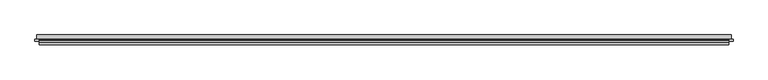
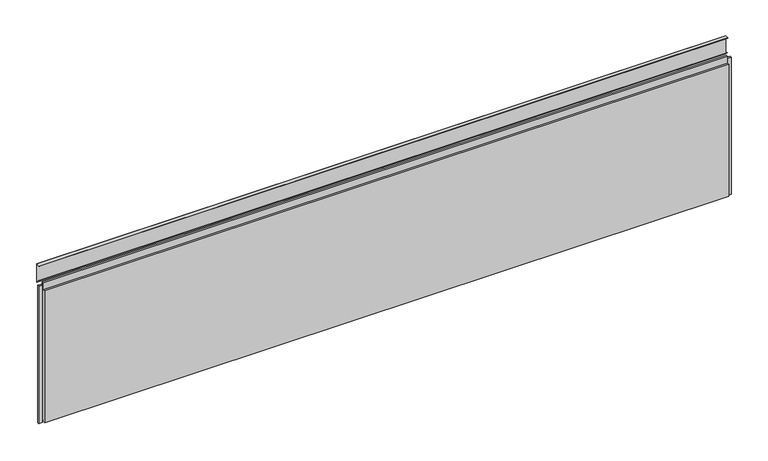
"""IFC4 building model written with IfcOpenShell, lengths in millimetres: plate geometry, Trimo_Qbiss Screen_Normal Panel-HORIZONTAL : HR - B."""

from ifc_helpers import new_model, si_unit, frame, origin, place, context, project, spatial, polyline, outline, extrude, source, transform, mapped, element, save


def plate_07490929(model_context):
    return source(origin(), model_context, "Body", "SweptSolid", [
        extrude(outline(polyline([(100.0, 748.2), (85.8578644, 762.3421356), (86.4235498, 762.907821), (99.2, 750.1313708), (99.2, 847.3569759), (80.0692781, 846.3543772), (80.0692781, 847.1554751), (100.0, 848.2), (100.0, 748.2)])), frame((-1775.0, 0.0, 0.0), z_axis=(1.0, 0.0, 0.0), x_axis=(0.0, 1.0, 0.0)), (0.0, 0.0, 1.0), 3550.0),
        extrude(outline(polyline([(-1765.5, 76.5978162), (-1765.5, 67.8978162), (-1784.5, 67.8978162), (-1784.5, 76.5978162), (-1765.5, 76.5978162)])), frame((0.0, 0.0, -1.0), z_axis=(0.0, 0.0, 1.0), x_axis=(1.0, 0.0, 0.0)), (0.0, 0.0, 1.0), 748.2),
        extrude(outline(polyline([(1765.5, 67.8978162), (1765.5, 76.5978162), (1784.5, 76.5978162), (1784.5, 67.8978162), (1765.5, 67.8978162)])), frame((0.0, 0.0, -1.0), z_axis=(0.0, 0.0, 1.0), x_axis=(1.0, 0.0, 0.0)), (0.0, 0.0, 1.0), 748.2),
        extrude(outline(polyline([(1762.5, 76.0), (1762.5, 71.0), (-1762.5, 71.0), (-1762.5, 76.0), (1762.5, 76.0)])), frame((0.0, 0.0, 726.2), z_axis=(0.0, 0.0, 1.0), x_axis=(1.0, 0.0, 0.0)), (0.0, 0.0, 1.0), 21.0),
        extrude(outline(polyline([(71.0, 725.2), (100.0, 725.2), (100.0, 0.0), (72.0, 0.0), (72.0, 15.5), (62.0, 15.5), (62.0, 7.0), (50.0, 7.0), (50.0, 725.2), (63.0, 725.2), (63.0, 762.7), (71.0, 762.7), (71.0, 725.2)])), frame((-1762.5, 0.0, 0.0), z_axis=(1.0, 0.0, 0.0), x_axis=(0.0, 1.0, 0.0)), (0.0, 0.0, 1.0), 3525.0),
    ])


if __name__ == "__main__":
    model = new_model("IFC4")
    model_context = context("Model", 3, world=origin())
    ifc_project = project(units=[si_unit("LENGTHUNIT", "METRE", prefix="MILLI")], contexts=[model_context])
    site = spatial("IfcSite", under=ifc_project)
    building = spatial("IfcBuilding", under=site)
    placement = place(None, origin())
    plate_shape = plate_07490929(model_context)
    element("IfcPlate", 1, ObjectType="Trimo_Qbiss Screen_Normal Panel-HORIZONTAL : HR - B", at=placement, inside=building, context=model_context, shape_type="MappedRepresentation", body=[
        mapped(plate_shape, transform((0.0, 0.0, 0.0), x_axis=(1.0, 0.0, 0.0), y_axis=(0.0, 1.0, 0.0), z_axis=(0.0, 0.0, 1.0))),
    ])
    save(model, "model.ifc")
